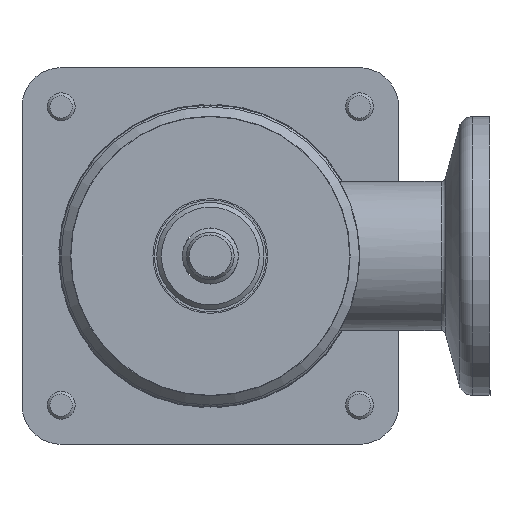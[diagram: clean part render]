
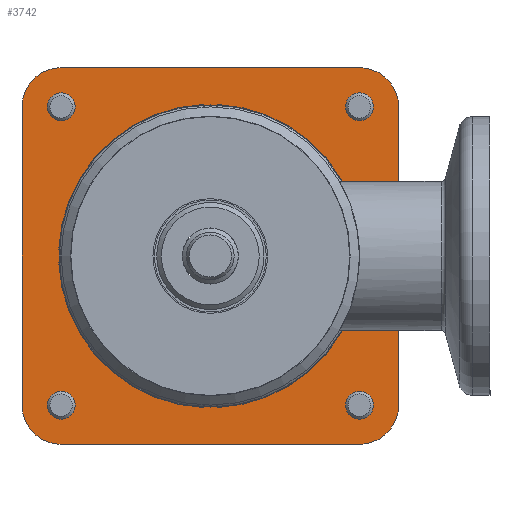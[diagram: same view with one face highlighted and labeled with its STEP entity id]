
A CAD part, front view. The second image highlights one B-rep face of the part: STEP entity #3742.
In plain terms, the highlighted planar face has unit normal (0, -1, 0) as drawn and (0, 1, 0) by its records, which use the part's own axes.
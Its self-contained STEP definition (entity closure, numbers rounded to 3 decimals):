
#1846=LINE('',#14901,#2465);
#1850=LINE('',#14910,#2469);
#1854=LINE('',#14922,#2473);
#1858=LINE('',#14931,#2477);
#1862=LINE('',#14943,#2481);
#1866=LINE('',#14952,#2485);
#1870=LINE('',#14964,#2489);
#1873=LINE('',#14980,#2492);
#1877=LINE('',#14990,#2496);
#1880=LINE('',#14998,#2499);
#1883=LINE('',#15006,#2502);
#1885=LINE('',#15011,#2504);
#2465=VECTOR('',#11881,1.);
#2469=VECTOR('',#11887,1.);
#2473=VECTOR('',#11899,1.);
#2477=VECTOR('',#11905,1.);
#2481=VECTOR('',#11917,1.);
#2485=VECTOR('',#11923,1.);
#2489=VECTOR('',#11935,1.);
#2492=VECTOR('',#11958,1.);
#2496=VECTOR('',#11968,1.);
#2499=VECTOR('',#11977,1.);
#2502=VECTOR('',#11986,1.);
#2504=VECTOR('',#11994,1.);
#3293=PLANE('',#9824);
#3742=ADVANCED_FACE('',(#4222,#4223,#4224,#4225,#4226,#4227),#3293,.T.);
#4222=FACE_BOUND('',#4890,.T.);
#4223=FACE_BOUND('',#4891,.T.);
#4224=FACE_BOUND('',#4892,.T.);
#4225=FACE_BOUND('',#4893,.T.);
#4226=FACE_BOUND('',#4894,.T.);
#4227=FACE_BOUND('',#4895,.T.);
#4890=EDGE_LOOP('',(#6892));
#4891=EDGE_LOOP('',(#6893));
#4892=EDGE_LOOP('',(#6894));
#4893=EDGE_LOOP('',(#6895));
#4894=EDGE_LOOP('',(#6896,#6897,#6898,#6899,#6900,#6901,#6902,#6903));
#4895=EDGE_LOOP('',(#6904,#6905,#6906,#6907,#6908,#6909,#6910,#6911,#6912,
#6913,#6914,#6915,#6916,#6917,#6918,#6919));
#6892=ORIENTED_EDGE('',*,*,#8705,.F.);
#6893=ORIENTED_EDGE('',*,*,#8706,.F.);
#6894=ORIENTED_EDGE('',*,*,#8707,.F.);
#6895=ORIENTED_EDGE('',*,*,#8708,.F.);
#6896=ORIENTED_EDGE('',*,*,#8688,.T.);
#6897=ORIENTED_EDGE('',*,*,#8691,.T.);
#6898=ORIENTED_EDGE('',*,*,#8693,.T.);
#6899=ORIENTED_EDGE('',*,*,#8695,.T.);
#6900=ORIENTED_EDGE('',*,*,#8697,.T.);
#6901=ORIENTED_EDGE('',*,*,#8699,.T.);
#6902=ORIENTED_EDGE('',*,*,#8701,.T.);
#6903=ORIENTED_EDGE('',*,*,#8702,.T.);
#6904=ORIENTED_EDGE('',*,*,#8644,.T.);
#6905=ORIENTED_EDGE('',*,*,#8647,.T.);
#6906=ORIENTED_EDGE('',*,*,#8686,.T.);
#6907=ORIENTED_EDGE('',*,*,#8651,.T.);
#6908=ORIENTED_EDGE('',*,*,#8654,.T.);
#6909=ORIENTED_EDGE('',*,*,#8657,.T.);
#6910=ORIENTED_EDGE('',*,*,#8684,.T.);
#6911=ORIENTED_EDGE('',*,*,#8661,.T.);
#6912=ORIENTED_EDGE('',*,*,#8664,.T.);
#6913=ORIENTED_EDGE('',*,*,#8667,.T.);
#6914=ORIENTED_EDGE('',*,*,#8682,.T.);
#6915=ORIENTED_EDGE('',*,*,#8671,.T.);
#6916=ORIENTED_EDGE('',*,*,#8674,.T.);
#6917=ORIENTED_EDGE('',*,*,#8677,.T.);
#6918=ORIENTED_EDGE('',*,*,#8680,.T.);
#6919=ORIENTED_EDGE('',*,*,#8704,.T.);
#7647=VERTEX_POINT('',#14889);
#7650=VERTEX_POINT('',#14894);
#7652=VERTEX_POINT('',#14900);
#7653=VERTEX_POINT('',#14904);
#7656=VERTEX_POINT('',#14909);
#7658=VERTEX_POINT('',#14915);
#7660=VERTEX_POINT('',#14921);
#7661=VERTEX_POINT('',#14925);
#7664=VERTEX_POINT('',#14930);
#7666=VERTEX_POINT('',#14936);
#7668=VERTEX_POINT('',#14942);
#7669=VERTEX_POINT('',#14946);
#7672=VERTEX_POINT('',#14951);
#7674=VERTEX_POINT('',#14957);
#7676=VERTEX_POINT('',#14963);
#7678=VERTEX_POINT('',#14969);
#7679=VERTEX_POINT('',#14979);
#7680=VERTEX_POINT('',#14981);
#7681=VERTEX_POINT('',#14985);
#7682=VERTEX_POINT('',#14989);
#7683=VERTEX_POINT('',#14993);
#7684=VERTEX_POINT('',#14997);
#7685=VERTEX_POINT('',#15001);
#7686=VERTEX_POINT('',#15005);
#7687=VERTEX_POINT('',#15014);
#7688=VERTEX_POINT('',#15016);
#7689=VERTEX_POINT('',#15018);
#7690=VERTEX_POINT('',#15020);
#8644=EDGE_CURVE('',#7647,#7650,#9034,.T.);
#8647=EDGE_CURVE('',#7650,#7652,#1846,.T.);
#8651=EDGE_CURVE('',#7653,#7656,#1850,.T.);
#8654=EDGE_CURVE('',#7656,#7658,#9036,.T.);
#8657=EDGE_CURVE('',#7658,#7660,#1854,.T.);
#8661=EDGE_CURVE('',#7661,#7664,#1858,.T.);
#8664=EDGE_CURVE('',#7664,#7666,#9038,.T.);
#8667=EDGE_CURVE('',#7666,#7668,#1862,.T.);
#8671=EDGE_CURVE('',#7669,#7672,#1866,.T.);
#8674=EDGE_CURVE('',#7672,#7674,#9040,.T.);
#8677=EDGE_CURVE('',#7674,#7676,#1870,.T.);
#8680=EDGE_CURVE('',#7676,#7678,#9042,.T.);
#8682=EDGE_CURVE('',#7668,#7669,#9044,.T.);
#8684=EDGE_CURVE('',#7660,#7661,#9046,.T.);
#8686=EDGE_CURVE('',#7652,#7653,#9048,.T.);
#8688=EDGE_CURVE('',#7680,#7679,#1873,.T.);
#8691=EDGE_CURVE('',#7679,#7681,#9049,.T.);
#8693=EDGE_CURVE('',#7681,#7682,#1877,.T.);
#8695=EDGE_CURVE('',#7682,#7683,#9050,.T.);
#8697=EDGE_CURVE('',#7683,#7684,#1880,.T.);
#8699=EDGE_CURVE('',#7684,#7685,#9051,.T.);
#8701=EDGE_CURVE('',#7685,#7686,#1883,.T.);
#8702=EDGE_CURVE('',#7686,#7680,#9052,.T.);
#8704=EDGE_CURVE('',#7678,#7647,#1885,.T.);
#8705=EDGE_CURVE('',#7687,#7687,#9053,.T.);
#8706=EDGE_CURVE('',#7688,#7688,#9054,.T.);
#8707=EDGE_CURVE('',#7689,#7689,#9055,.T.);
#8708=EDGE_CURVE('',#7690,#7690,#9056,.T.);
#9034=CIRCLE('',#9780,16.1);
#9036=CIRCLE('',#9785,16.1);
#9038=CIRCLE('',#9790,16.1);
#9040=CIRCLE('',#9795,16.1);
#9042=CIRCLE('',#9799,16.275);
#9044=CIRCLE('',#9801,16.275);
#9046=CIRCLE('',#9803,16.275);
#9048=CIRCLE('',#9805,16.275);
#9049=CIRCLE('',#9808,4.2);
#9050=CIRCLE('',#9811,4.2);
#9051=CIRCLE('',#9814,4.2);
#9052=CIRCLE('',#9817,4.2);
#9053=CIRCLE('',#9820,1.5);
#9054=CIRCLE('',#9821,1.5);
#9055=CIRCLE('',#9822,1.5);
#9056=CIRCLE('',#9823,1.5);
#9780=AXIS2_PLACEMENT_3D('',#14895,#11875,#11876);
#9785=AXIS2_PLACEMENT_3D('',#14916,#11893,#11894);
#9790=AXIS2_PLACEMENT_3D('',#14937,#11911,#11912);
#9795=AXIS2_PLACEMENT_3D('',#14958,#11929,#11930);
#9799=AXIS2_PLACEMENT_3D('',#14970,#11941,#11942);
#9801=AXIS2_PLACEMENT_3D('',#14972,#11945,#11946);
#9803=AXIS2_PLACEMENT_3D('',#14974,#11949,#11950);
#9805=AXIS2_PLACEMENT_3D('',#14976,#11953,#11954);
#9808=AXIS2_PLACEMENT_3D('',#14986,#11963,#11964);
#9811=AXIS2_PLACEMENT_3D('',#14994,#11972,#11973);
#9814=AXIS2_PLACEMENT_3D('',#15002,#11981,#11982);
#9817=AXIS2_PLACEMENT_3D('',#15008,#11989,#11990);
#9820=AXIS2_PLACEMENT_3D('',#15013,#11997,#11998);
#9821=AXIS2_PLACEMENT_3D('',#15015,#11999,#12000);
#9822=AXIS2_PLACEMENT_3D('',#15017,#12001,#12002);
#9823=AXIS2_PLACEMENT_3D('',#15019,#12003,#12004);
#9824=AXIS2_PLACEMENT_3D('',#15021,#12005,#12006);
#11875=DIRECTION('',(0.,-1.,0.));
#11876=DIRECTION('',(0.,0.,1.));
#11881=DIRECTION('',(0.,0.,1.));
#11887=DIRECTION('',(1.,0.,0.));
#11893=DIRECTION('',(0.,-1.,0.));
#11894=DIRECTION('',(0.,0.,1.));
#11899=DIRECTION('',(-1.,0.,0.));
#11905=DIRECTION('',(0.,0.,1.));
#11911=DIRECTION('',(0.,-1.,0.));
#11912=DIRECTION('',(0.,0.,1.));
#11917=DIRECTION('',(0.,0.,-1.));
#11923=DIRECTION('',(-1.,0.,0.));
#11929=DIRECTION('',(0.,-1.,0.));
#11930=DIRECTION('',(0.,0.,1.));
#11935=DIRECTION('',(1.,0.,0.));
#11941=DIRECTION('',(0.,-1.,0.));
#11942=DIRECTION('',(0.,0.,1.));
#11945=DIRECTION('',(0.,-1.,0.));
#11946=DIRECTION('',(0.,0.,1.));
#11949=DIRECTION('',(0.,-1.,0.));
#11950=DIRECTION('',(0.,0.,1.));
#11953=DIRECTION('',(0.,-1.,0.));
#11954=DIRECTION('',(0.,0.,1.));
#11958=DIRECTION('',(0.,0.,-1.));
#11963=DIRECTION('',(0.,1.,0.));
#11964=DIRECTION('',(1.,0.,0.));
#11968=DIRECTION('',(-1.,0.,0.));
#11972=DIRECTION('',(0.,1.,0.));
#11973=DIRECTION('',(0.,0.,-1.));
#11977=DIRECTION('',(0.,0.,1.));
#11981=DIRECTION('',(0.,1.,0.));
#11982=DIRECTION('',(-1.,0.,0.));
#11986=DIRECTION('',(1.,0.,0.));
#11989=DIRECTION('',(0.,1.,0.));
#11990=DIRECTION('',(0.,0.,1.));
#11994=DIRECTION('',(0.,0.,-1.));
#11997=DIRECTION('',(0.,1.,0.));
#11998=DIRECTION('',(-1.,0.,0.));
#11999=DIRECTION('',(0.,1.,0.));
#12000=DIRECTION('',(-1.,0.,0.));
#12001=DIRECTION('',(0.,1.,0.));
#12002=DIRECTION('',(-1.,0.,0.));
#12003=DIRECTION('',(0.,1.,0.));
#12004=DIRECTION('',(-1.,0.,0.));
#12005=DIRECTION('',(0.,1.,0.));
#12006=DIRECTION('',(0.,0.,1.));
#14889=CARTESIAN_POINT('',(0.75,6.,16.083));
#14894=CARTESIAN_POINT('',(-0.75,6.,16.083));
#14895=CARTESIAN_POINT('',(0.,6.,0.));
#14900=CARTESIAN_POINT('',(-0.75,6.,16.258));
#14901=CARTESIAN_POINT('',(-0.75,6.,16.083));
#14904=CARTESIAN_POINT('',(-16.258,6.,0.75));
#14909=CARTESIAN_POINT('',(-16.083,6.,0.75));
#14910=CARTESIAN_POINT('',(-16.258,6.,0.75));
#14915=CARTESIAN_POINT('',(-16.083,6.,-0.75));
#14916=CARTESIAN_POINT('',(0.,6.,0.));
#14921=CARTESIAN_POINT('',(-16.258,6.,-0.75));
#14922=CARTESIAN_POINT('',(-16.083,6.,-0.75));
#14925=CARTESIAN_POINT('',(-0.75,6.,-16.258));
#14930=CARTESIAN_POINT('',(-0.75,6.,-16.083));
#14931=CARTESIAN_POINT('',(-0.75,6.,-16.258));
#14936=CARTESIAN_POINT('',(0.75,6.,-16.083));
#14937=CARTESIAN_POINT('',(0.,6.,0.));
#14942=CARTESIAN_POINT('',(0.75,6.,-16.258));
#14943=CARTESIAN_POINT('',(0.75,6.,-16.083));
#14946=CARTESIAN_POINT('',(16.258,6.,-0.75));
#14951=CARTESIAN_POINT('',(16.083,6.,-0.75));
#14952=CARTESIAN_POINT('',(16.258,6.,-0.75));
#14957=CARTESIAN_POINT('',(16.083,6.,0.75));
#14958=CARTESIAN_POINT('',(0.,6.,0.));
#14963=CARTESIAN_POINT('',(16.258,6.,0.75));
#14964=CARTESIAN_POINT('',(16.083,6.,0.75));
#14969=CARTESIAN_POINT('',(0.75,6.,16.258));
#14970=CARTESIAN_POINT('',(0.,6.,0.));
#14972=CARTESIAN_POINT('',(0.,6.,0.));
#14974=CARTESIAN_POINT('',(0.,6.,0.));
#14976=CARTESIAN_POINT('',(0.,6.,0.));
#14979=CARTESIAN_POINT('',(20.2,6.,-16.));
#14980=CARTESIAN_POINT('',(20.2,6.,16.));
#14981=CARTESIAN_POINT('',(20.2,6.,16.));
#14985=CARTESIAN_POINT('',(16.,6.,-20.2));
#14986=CARTESIAN_POINT('',(16.,6.,-16.));
#14989=CARTESIAN_POINT('',(-16.,6.,-20.2));
#14990=CARTESIAN_POINT('',(16.,6.,-20.2));
#14993=CARTESIAN_POINT('',(-20.2,6.,-16.));
#14994=CARTESIAN_POINT('',(-16.,6.,-16.));
#14997=CARTESIAN_POINT('',(-20.2,6.,16.));
#14998=CARTESIAN_POINT('',(-20.2,6.,-16.));
#15001=CARTESIAN_POINT('',(-16.,6.,20.2));
#15002=CARTESIAN_POINT('',(-16.,6.,16.));
#15005=CARTESIAN_POINT('',(16.,6.,20.2));
#15006=CARTESIAN_POINT('',(-16.,6.,20.2));
#15008=CARTESIAN_POINT('',(16.,6.,16.));
#15011=CARTESIAN_POINT('',(0.75,6.,16.258));
#15013=CARTESIAN_POINT('',(-16.,6.,16.));
#15014=CARTESIAN_POINT('',(-17.5,6.,16.));
#15015=CARTESIAN_POINT('',(16.,6.,-16.));
#15016=CARTESIAN_POINT('',(14.5,6.,-16.));
#15017=CARTESIAN_POINT('',(-16.,6.,-16.));
#15018=CARTESIAN_POINT('',(-17.5,6.,-16.));
#15019=CARTESIAN_POINT('',(16.,6.,16.));
#15020=CARTESIAN_POINT('',(14.5,6.,16.));
#15021=CARTESIAN_POINT('',(16.,6.,-16.));
